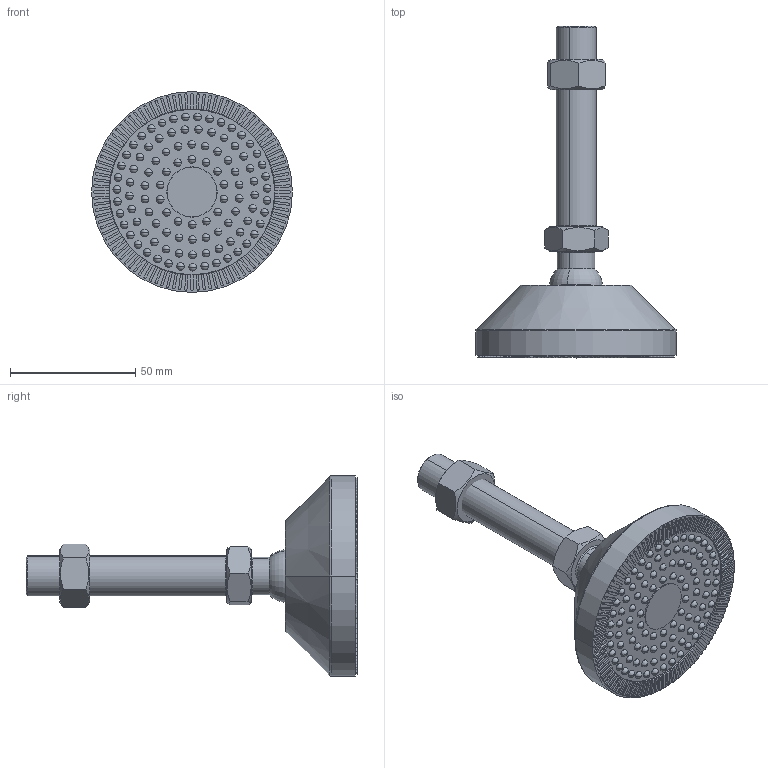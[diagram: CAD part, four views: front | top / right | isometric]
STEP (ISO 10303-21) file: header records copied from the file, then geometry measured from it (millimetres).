
FILE_DESCRIPTION (( 'STEP AP203' ), '1' );
FILE_NAME ('7056.STEP', '2016-04-17T11:49:01', ( '' ), ( '' ), 'SwSTEP 2.0', 'SolidWorks 2014', '' );
FILE_SCHEMA (( 'CONFIG_CONTROL_DESIGN' ));
Length unit declared in the file: millimetre
Products named in the file (5): Ïîäîøâà ïîâîðîòíàÿ 80ìì; Ïðîêëàäêà îò ñêîëüæåíèÿ ïîä 80ìì; Øïèëüêà Ì16 80ìì; Ãàéêà áåç äûðêè Ì16; 7056
Assembly tree (4 placements, depth 2):
  7056
    Ïîäîøâà ïîâîðîòíàÿ 80ìì
    Ïðîêëàäêà îò ñêîëüæåíèÿ ïîä 80ìì
    Øïèëüêà Ì16 80ìì
    Ãàéêà áåç äûðêè Ì16
Bounding box: 80 x 132.23 x 80 mm (x, y, z)
Volume: 135427.4 mm3; surface area: 32445.5 mm2
Topology: 4 solids, 4 shells, 1029 faces, 3132 edges, 2012 vertices
Faces by surface type: plane 525, cylinder 268, sphere 208, cone 20, torus 8
Entity records: 32911 total; most frequent: DIRECTION 5840, CARTESIAN_POINT 5826, ORIENTED_EDGE 5432, EDGE_CURVE 2716, AXIS2_PLACEMENT_3D 2120, VERTEX_POINT 1804, LINE 1600, VECTOR 1600
